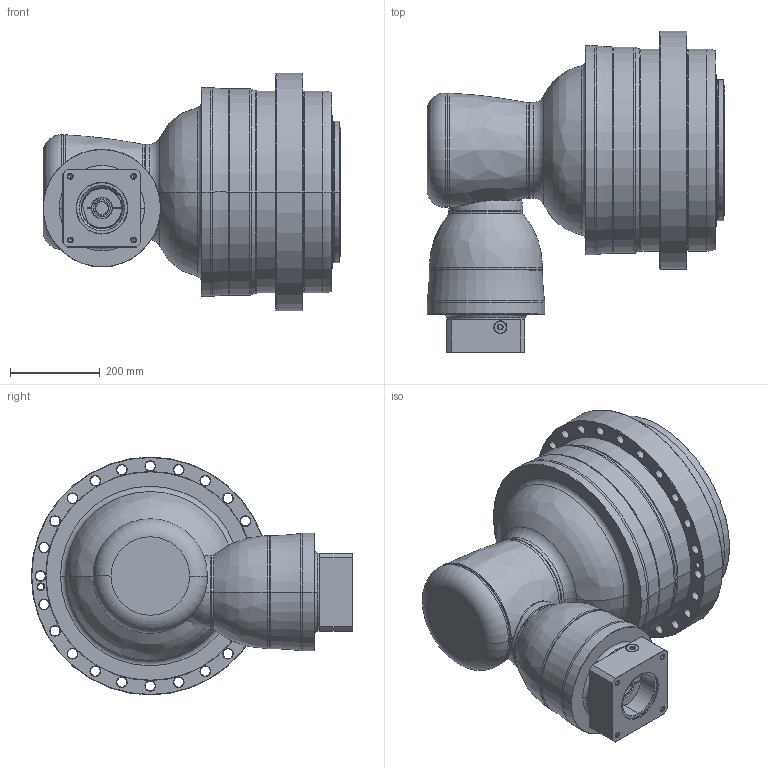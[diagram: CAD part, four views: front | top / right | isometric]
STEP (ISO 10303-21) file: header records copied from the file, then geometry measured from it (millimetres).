
FILE_DESCRIPTION((''),'2;1');
FILE_NAME('APK450_4ST_38-P0409910201_ASM','2018-10-04T',('D00080'),(''),'PRO/ENGINEER BY PARAMETRIC TECHNOLOGY CORPORATION, 2015240','PRO/ENGINEER BY PARAMETRIC TECHNOLOGY CORPORATION, 2015240','');
FILE_SCHEMA(('CONFIG_CONTROL_DESIGN'));
Length unit declared in the file: millimetre
Products named in the file (13): P1008700002; P1315700001; P1007701001; P1317701201; P1821200001; P0276201003; P0357201103; P1222200001; P0503900012; P0912652001; P0409910201; 21711422019; APK450_4ST_38-P0409910201_ASM
Assembly tree (12 placements, depth 2):
  APK450_4ST_38-P0409910201_ASM
    P1008700002
    P1315700001
    P1007701001
    P1317701201
    P1821200001
    P0276201003
    P0357201103
    P1222200001
    P0503900012
    P0912652001
    P0409910201
    21711422019
Bounding box: 663.5 x 716 x 530 mm (x, y, z)
Volume: 90116859.3 mm3; surface area: 3243619.4 mm2
Topology: 13 solids, 36 shells, 767 faces, 1734 edges, 1036 vertices
Faces by surface type: cylinder 298, cone 226, plane 122, torus 93, bspline 26, sphere 2
Entity records: 29083 total; most frequent: CARTESIAN_POINT 11223, DIRECTION 4120, ORIENTED_EDGE 3302, AXIS2_PLACEMENT_3D 1764, EDGE_CURVE 1698, VERTEX_POINT 1036, CIRCLE 986, EDGE_LOOP 914
